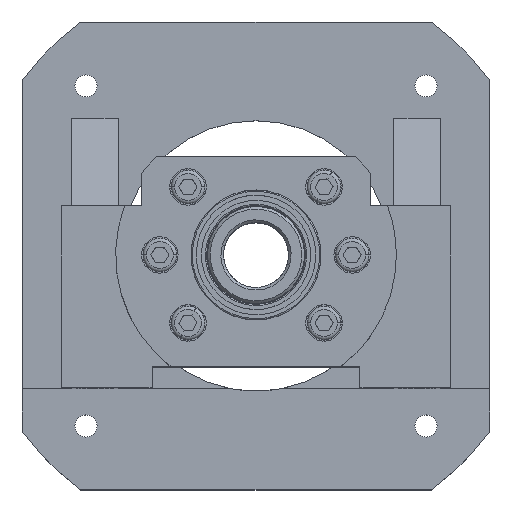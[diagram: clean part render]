
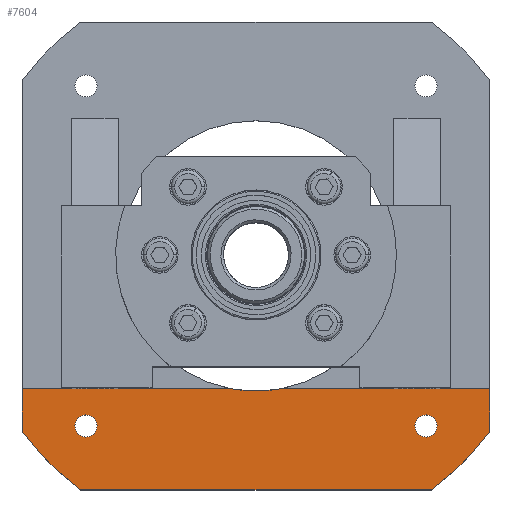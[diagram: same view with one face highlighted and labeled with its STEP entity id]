
A CAD part, top view. The second image highlights one B-rep face of the part: STEP entity #7604.
In plain terms, the highlighted planar face has unit normal (0, 0, 1).
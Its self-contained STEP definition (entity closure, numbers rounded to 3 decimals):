
#193 = AXIS2_PLACEMENT_3D ( 'NONE', #3837, #11088, #4872 ) ;
#240 = CARTESIAN_POINT ( 'NONE',  ( 0., 0., 21. ) ) ;
#288 = ORIENTED_EDGE ( 'NONE', *, *, #6801, .F. ) ;
#323 = AXIS2_PLACEMENT_3D ( 'NONE', #7309, #1119, #8357 ) ;
#566 = CIRCLE ( 'NONE', #13292, 112.5 ) ;
#621 = EDGE_LOOP ( 'NONE', ( #1640, #1501, #6039, #11927, #6862, #3687, #6887, #7382 ) ) ;
#675 = ORIENTED_EDGE ( 'NONE', *, *, #8080, .F. ) ;
#700 = EDGE_CURVE ( 'NONE', #5507, #836, #5333, .T. ) ;
#836 = VERTEX_POINT ( 'NONE', #13443 ) ;
#910 = CARTESIAN_POINT ( 'NONE',  ( 90., 90., 21. ) ) ;
#1050 = VECTOR ( 'NONE', #2829, 1000. ) ;
#1071 = CARTESIAN_POINT ( 'NONE',  ( 90., -67.5, 21. ) ) ;
#1119 = DIRECTION ( 'NONE',  ( 0., 0., 1. ) ) ;
#1136 = AXIS2_PLACEMENT_3D ( 'NONE', #7859, #1644, #8898 ) ;
#1269 = CARTESIAN_POINT ( 'NONE',  ( -104.626, -111., 21. ) ) ;
#1288 = DIRECTION ( 'NONE',  ( 1., 0., 0. ) ) ;
#1501 = ORIENTED_EDGE ( 'NONE', *, *, #6991, .T. ) ;
#1554 = LINE ( 'NONE', #910, #9826 ) ;
#1640 = ORIENTED_EDGE ( 'NONE', *, *, #12063, .T. ) ;
#1644 = DIRECTION ( 'NONE',  ( 0., 0., -1. ) ) ;
#1652 = VERTEX_POINT ( 'NONE', #11806 ) ;
#1910 = ORIENTED_EDGE ( 'NONE', *, *, #13438, .F. ) ;
#1945 = CIRCLE ( 'NONE', #323, 4.25 ) ;
#1975 = VERTEX_POINT ( 'NONE', #10206 ) ;
#2199 = EDGE_LOOP ( 'NONE', ( #288, #1910 ) ) ;
#2226 = VERTEX_POINT ( 'NONE', #12679 ) ;
#2289 = DIRECTION ( 'NONE',  ( 1., 0., 0. ) ) ;
#2586 = EDGE_CURVE ( 'NONE', #5615, #3701, #1554, .T. ) ;
#2829 = DIRECTION ( 'NONE',  ( 1., 0., 0. ) ) ;
#2981 = CARTESIAN_POINT ( 'NONE',  ( 65.407, -65.407, 21. ) ) ;
#3111 = DIRECTION ( 'NONE',  ( 0., 0., 1. ) ) ;
#3169 = DIRECTION ( 'NONE',  ( 0., 0., 1. ) ) ;
#3303 = FACE_BOUND ( 'NONE', #2199, .T. ) ;
#3395 = CIRCLE ( 'NONE', #8108, 4.25 ) ;
#3468 = AXIS2_PLACEMENT_3D ( 'NONE', #1269, #8495, #2289 ) ;
#3547 = EDGE_CURVE ( 'NONE', #1975, #2226, #9643, .T. ) ;
#3627 = FACE_BOUND ( 'NONE', #12726, .T. ) ;
#3687 = ORIENTED_EDGE ( 'NONE', *, *, #5399, .F. ) ;
#3701 = VERTEX_POINT ( 'NONE', #9230 ) ;
#3823 = CARTESIAN_POINT ( 'NONE',  ( -104.626, -51., 21. ) ) ;
#3832 = VECTOR ( 'NONE', #5902, 1000. ) ;
#3837 = CARTESIAN_POINT ( 'NONE',  ( -65.407, -65.407, 21. ) ) ;
#3955 = CARTESIAN_POINT ( 'NONE',  ( -67.5, -90., 21. ) ) ;
#4030 = DIRECTION ( 'NONE',  ( 0., 1., 0. ) ) ;
#4031 = DIRECTION ( 'NONE',  ( 1., 0., 0. ) ) ;
#4153 = DIRECTION ( 'NONE',  ( 0., -1., 0. ) ) ;
#4235 = AXIS2_PLACEMENT_3D ( 'NONE', #2981, #10229, #4031 ) ;
#4266 = CIRCLE ( 'NONE', #193, 4.25 ) ;
#4872 = DIRECTION ( 'NONE',  ( 1., 0., 0. ) ) ;
#4931 = CARTESIAN_POINT ( 'NONE',  ( -90., -67.5, 21. ) ) ;
#5075 = VERTEX_POINT ( 'NONE', #12692 ) ;
#5333 = LINE ( 'NONE', #7018, #12972 ) ;
#5399 = EDGE_CURVE ( 'NONE', #1652, #3701, #12129, .T. ) ;
#5507 = VERTEX_POINT ( 'NONE', #3955 ) ;
#5578 = CIRCLE ( 'NONE', #1136, 52. ) ;
#5615 = VERTEX_POINT ( 'NONE', #1071 ) ;
#5902 = DIRECTION ( 'NONE',  ( 1., 0., 0. ) ) ;
#6039 = ORIENTED_EDGE ( 'NONE', *, *, #700, .T. ) ;
#6734 = CARTESIAN_POINT ( 'NONE',  ( 61.157, -65.407, 21. ) ) ;
#6801 = EDGE_CURVE ( 'NONE', #10107, #5075, #7374, .T. ) ;
#6862 = ORIENTED_EDGE ( 'NONE', *, *, #2586, .T. ) ;
#6887 = ORIENTED_EDGE ( 'NONE', *, *, #8620, .T. ) ;
#6956 = CARTESIAN_POINT ( 'NONE',  ( -104.626, -51., 21. ) ) ;
#6969 = VECTOR ( 'NONE', #4153, 1000. ) ;
#6991 = EDGE_CURVE ( 'NONE', #13278, #5507, #566, .T. ) ;
#7018 = CARTESIAN_POINT ( 'NONE',  ( -90., -90., 21. ) ) ;
#7196 = CARTESIAN_POINT ( 'NONE',  ( -61.157, -65.407, 21. ) ) ;
#7309 = CARTESIAN_POINT ( 'NONE',  ( -65.407, -65.407, 21. ) ) ;
#7374 = CIRCLE ( 'NONE', #4235, 4.25 ) ;
#7382 = ORIENTED_EDGE ( 'NONE', *, *, #3547, .F. ) ;
#7469 = DIRECTION ( 'NONE',  ( 0., 0., 1. ) ) ;
#7520 = CIRCLE ( 'NONE', #9016, 112.5 ) ;
#7604 = ADVANCED_FACE ( 'NONE', ( #3303, #3627, #11601 ), #12661, .T. ) ;
#7740 = EDGE_CURVE ( 'NONE', #836, #5615, #7520, .T. ) ;
#7859 = CARTESIAN_POINT ( 'NONE',  ( 0., 0., 21. ) ) ;
#8072 = ORIENTED_EDGE ( 'NONE', *, *, #12659, .F. ) ;
#8080 = EDGE_CURVE ( 'NONE', #8970, #10802, #4266, .T. ) ;
#8108 = AXIS2_PLACEMENT_3D ( 'NONE', #9328, #3111, #10382 ) ;
#8301 = CARTESIAN_POINT ( 'NONE',  ( -69.657, -65.407, 21. ) ) ;
#8357 = DIRECTION ( 'NONE',  ( 1., 0., 0. ) ) ;
#8495 = DIRECTION ( 'NONE',  ( 0., 0., 1. ) ) ;
#8620 = EDGE_CURVE ( 'NONE', #1652, #2226, #5578, .T. ) ;
#8898 = DIRECTION ( 'NONE',  ( 1., 0., 0. ) ) ;
#8970 = VERTEX_POINT ( 'NONE', #8301 ) ;
#9016 = AXIS2_PLACEMENT_3D ( 'NONE', #9383, #3169, #10429 ) ;
#9230 = CARTESIAN_POINT ( 'NONE',  ( 90., -51., 21. ) ) ;
#9328 = CARTESIAN_POINT ( 'NONE',  ( 65.407, -65.407, 21. ) ) ;
#9383 = CARTESIAN_POINT ( 'NONE',  ( 0., 0., 21. ) ) ;
#9643 = LINE ( 'NONE', #6956, #1050 ) ;
#9826 = VECTOR ( 'NONE', #4030, 1000. ) ;
#10107 = VERTEX_POINT ( 'NONE', #6734 ) ;
#10206 = CARTESIAN_POINT ( 'NONE',  ( -90., -51., 21. ) ) ;
#10229 = DIRECTION ( 'NONE',  ( 0., 0., 1. ) ) ;
#10382 = DIRECTION ( 'NONE',  ( 1., 0., 0. ) ) ;
#10429 = DIRECTION ( 'NONE',  ( 1., 0., 0. ) ) ;
#10802 = VERTEX_POINT ( 'NONE', #7196 ) ;
#11088 = DIRECTION ( 'NONE',  ( 0., 0., 1. ) ) ;
#11423 = CARTESIAN_POINT ( 'NONE',  ( -90., 90., 21. ) ) ;
#11601 = FACE_OUTER_BOUND ( 'NONE', #621, .T. ) ;
#11806 = CARTESIAN_POINT ( 'NONE',  ( 10.149, -51., 21. ) ) ;
#11874 = LINE ( 'NONE', #11423, #6969 ) ;
#11927 = ORIENTED_EDGE ( 'NONE', *, *, #7740, .T. ) ;
#12063 = EDGE_CURVE ( 'NONE', #1975, #13278, #11874, .T. ) ;
#12129 = LINE ( 'NONE', #3823, #3832 ) ;
#12215 = DIRECTION ( 'NONE',  ( 1., 0., 0. ) ) ;
#12659 = EDGE_CURVE ( 'NONE', #10802, #8970, #1945, .T. ) ;
#12661 = PLANE ( 'NONE',  #3468 ) ;
#12679 = CARTESIAN_POINT ( 'NONE',  ( -10.149, -51., 21. ) ) ;
#12692 = CARTESIAN_POINT ( 'NONE',  ( 69.657, -65.407, 21. ) ) ;
#12726 = EDGE_LOOP ( 'NONE', ( #675, #8072 ) ) ;
#12972 = VECTOR ( 'NONE', #12215, 1000. ) ;
#13278 = VERTEX_POINT ( 'NONE', #4931 ) ;
#13292 = AXIS2_PLACEMENT_3D ( 'NONE', #240, #7469, #1288 ) ;
#13438 = EDGE_CURVE ( 'NONE', #5075, #10107, #3395, .T. ) ;
#13443 = CARTESIAN_POINT ( 'NONE',  ( 67.5, -90., 21. ) ) ;
